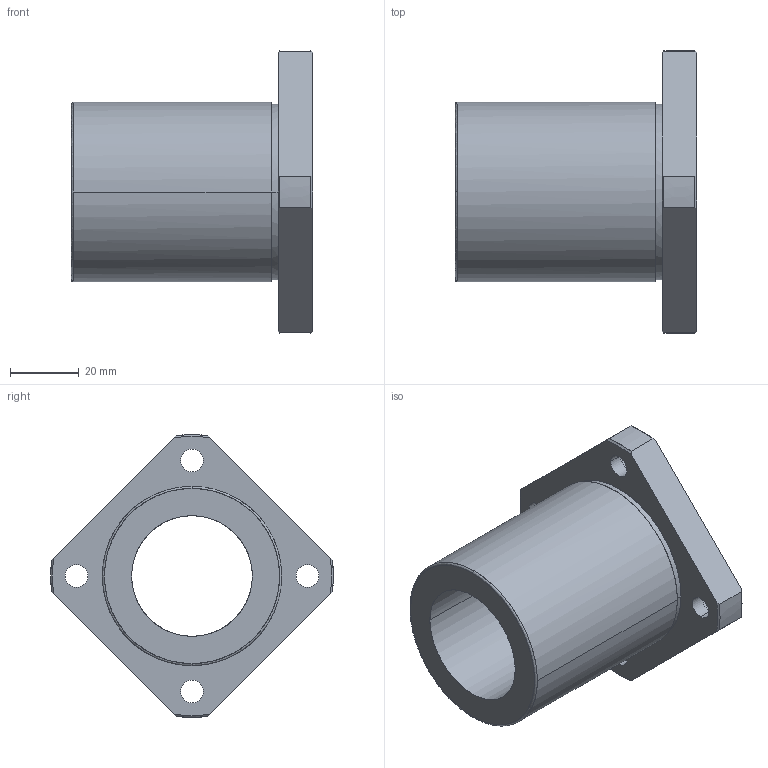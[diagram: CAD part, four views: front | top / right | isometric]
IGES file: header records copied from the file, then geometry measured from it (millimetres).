
Start section: 3D InterOp IGES (Version 21 0 1), Spatial Corp. Copyright (c) 1999-2007.
Global section: file name: NF-35VUU.igs; native system: Spatial Corp.; preprocessor: 3D InterOp GENERIC/IGES 3.0; author: Noname; organization: Noname; date: 20220308.153944; units: millimetre
Bounding box: 70 x 82 x 81.99 mm (x, y, z)
Surface area: 27010.5 mm2 (no closed solid volume)
Topology: 0 solids, 0 shells, 50 faces, 266 edges, 266 vertices
Faces by surface type: revolution 34, extrusion 12, bspline 4
